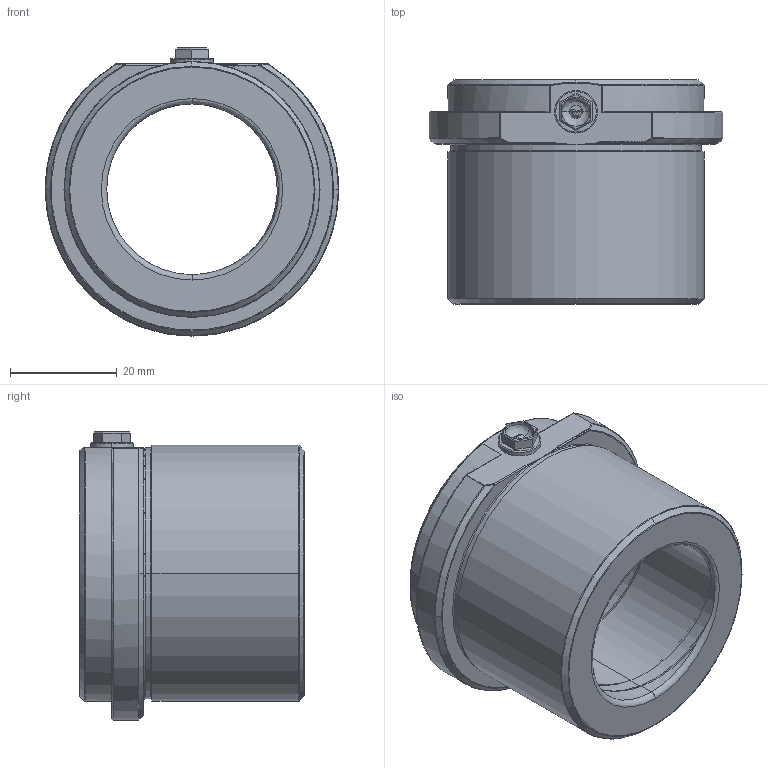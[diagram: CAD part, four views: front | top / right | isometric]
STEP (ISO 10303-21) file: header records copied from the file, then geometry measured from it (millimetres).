
FILE_DESCRIPTION( ( 'STEP AP203' ), '1' );
FILE_NAME( 'D:/Delta 3 D/D26/D26 - 32x30.step', '2003-01-02T07:40:52', ( ' ' ), ( ' ' ), 'XStep 1.0', ' ', ' ' );
FILE_SCHEMA( ( 'CONFIG_CONTROL_DESIGN' ) );
Length unit declared in the file: metre
Products named in the file (2): 1; 2
Bounding box: 55 x 42 x 54 mm (x, y, z)
Volume: 44708.2 mm3; surface area: 13889.3 mm2
Topology: 2 solids, 2 shells, 109 faces, 265 edges, 154 vertices
Faces by surface type: revolution 57, bspline 52
Entity records: 4723 total; most frequent: CARTESIAN_POINT 2482, ORIENTED_EDGE 512, DIRECTION 319, EDGE_CURVE 256, VERTEX_POINT 154, EDGE_LOOP 116, ADVANCED_FACE 109, FACE_OUTER_BOUND 109
